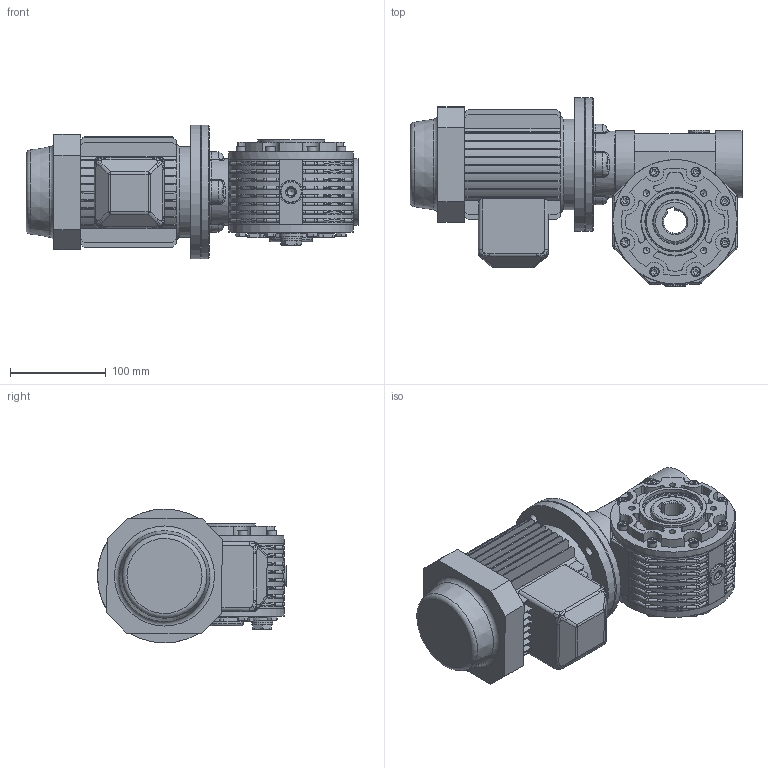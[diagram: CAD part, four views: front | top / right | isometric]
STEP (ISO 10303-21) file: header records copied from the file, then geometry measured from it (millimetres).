
FILE_DESCRIPTION((''),'2;1');
FILE_NAME('Y:\Archivi Inventor\Prog_01\GRAND_20\figuirini\mrv20_sito\63\MRV---20---FP1----63----B5--3D.stp','2013-02-08T15:47:04',('tech3'),(''),'Autodesk Inventor 2013','Autodesk Inventor 2013','');
FILE_SCHEMA(('AUTOMOTIVE_DESIGN { 1 0 10303 214 1 1 1 1 }'));
Length unit declared in the file: millimetre
Products named in the file (19): fig_mrv20_63_b5; mrv20; 0102001; Coperchietto_47x7; Guarnizione 3_8 GAS; Tappo 3_8 GAS_esagn_incsst; mozzo_corona_fig; PARAOLIO 45x60x8; ISO 4017 M6 x 16; 0102029; 0102002-A1_fig; Tappo3_8 GAS; ISO 4762 M6 x 16; DIN EN 24017 M6 x 12; 0102004; 0102028; DIN EN ISO 4762 M6 x 20; 0102006; motori B5 63
Assembly tree (40 placements, depth 3):
  fig_mrv20_63_b5
    mrv20
      0102001
      Coperchietto_47x7
      Guarnizione 3_8 GAS  x3
      Tappo 3_8 GAS_esagn_incsst  x2
      mozzo_corona_fig
      PARAOLIO 45x60x8  x2
      ISO 4017 M6 x 16  x8
      0102029  x2
      0102002-A1_fig
      Tappo3_8 GAS
      ISO 4762 M6 x 16  x8
      DIN EN 24017 M6 x 12
      0102004
      0102028
      DIN EN ISO 4762 M6 x 20  x4
    0102006
    motori B5 63
Bounding box: 347 x 197.5 x 139.99 mm (x, y, z)
Volume: 3488480.9 mm3; surface area: 528310.6 mm2
Topology: 39 solids, 51 shells, 1999 faces, 4822 edges, 2924 vertices
Faces by surface type: plane 862, cylinder 623, bspline 189, torus 168, cone 145, sphere 12
Full cylindrical faces by diameter (mm): 2 x2, 4.917 x20, 6 x21, 6.5 x28, 6.647 x4, 6.75 x12, 8 x2, 8.88 x9, 10 x16, 11 x9, 13.046 x1, 14.95 x3, 16.3 x3, 16.5 x2, 22 x6, 25 x2, 40 x1, 41.36 x1, 44.4 x2, 45 x4, 47 x4, 49.5 x1, 50.605 x2, 55.5 x2, 60 x5, 63 x1, 69.5 x1, 70 x3, 95 x3, 100 x6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
Entity records: 58435 total; most frequent: CARTESIAN_POINT 19808, DIRECTION 8090, ORIENTED_EDGE 7584, EDGE_CURVE 3792, AXIS2_PLACEMENT_3D 3238, VERTEX_POINT 2438, EDGE_LOOP 2016, CIRCLE 1689
